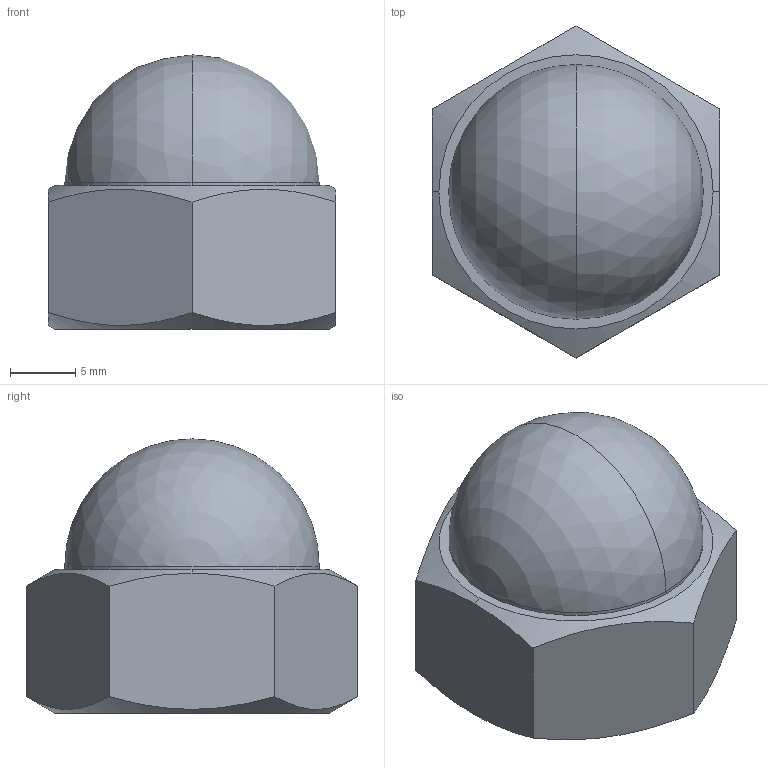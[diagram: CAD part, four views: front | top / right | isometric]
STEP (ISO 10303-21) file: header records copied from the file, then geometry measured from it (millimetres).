
FILE_DESCRIPTION (( 'STEP AP214' ), '1' );
FILE_NAME ('Domed-cap-nut-3-2-M14xP1.5-fine-thread-screw.STEP', '2024-05-06T00:41:02', ( 'ASIS User' ), ( 'ASIS User' ), 'SwSTEP 2.0', 'SolidWorks 2023', '' );
FILE_SCHEMA (( 'AUTOMOTIVE_DESIGN' ));
Length unit declared in the file: millimetre
Products named in the file (1): Domed-cap-nut-3-2-M14xP1.5-fine-thread-screw
Bounding box: 22 x 25.4 x 21 mm (x, y, z)
Volume: 3867.4 mm3; surface area: 2999.8 mm2
Topology: 1 solids, 1 shells, 44 faces, 122 edges, 79 vertices
Faces by surface type: cylinder 18, cone 10, plane 9, sphere 4, bspline 3
Entity records: 4351 total; most frequent: CARTESIAN_POINT 3372, ORIENTED_EDGE 228, DIRECTION 163, EDGE_CURVE 114, VERTEX_POINT 75, AXIS2_PLACEMENT_3D 66, EDGE_LOOP 47, ADVANCED_FACE 44
